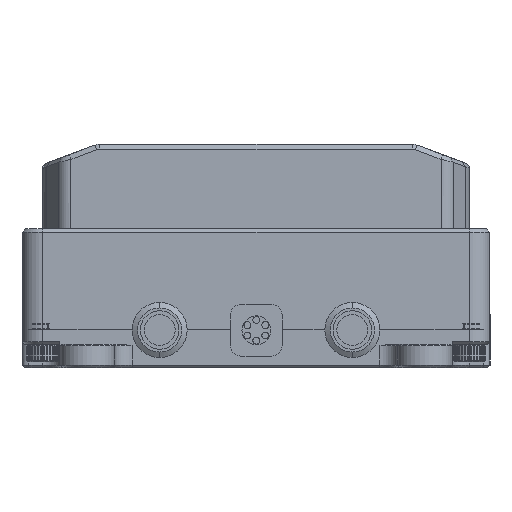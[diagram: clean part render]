
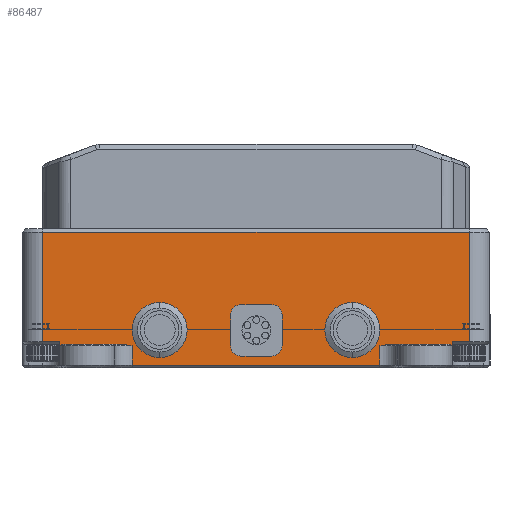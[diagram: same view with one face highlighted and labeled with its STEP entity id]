
A CAD part, left-side view. The second image highlights one B-rep face of the part: STEP entity #86487.
In plain terms, the highlighted planar face has unit normal (-1, 0, 0).
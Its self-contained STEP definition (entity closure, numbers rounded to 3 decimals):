
#761=DIRECTION('',(0.,0.,-1.));
#762=VECTOR('',#761,15.9);
#763=CARTESIAN_POINT('',(-66.5,31.,4.7));
#764=LINE('',#763,#762);
#791=DIRECTION('',(0.,-1.,0.));
#792=VECTOR('',#791,2.5);
#793=CARTESIAN_POINT('',(-66.5,-28.5,-11.2));
#794=LINE('',#793,#792);
#798=DIRECTION('',(0.,0.,-1.));
#799=VECTOR('',#798,0.6);
#800=CARTESIAN_POINT('',(-66.5,-28.5,-11.2));
#801=LINE('',#800,#799);
#805=DIRECTION('',(0.,0.,-1.));
#806=VECTOR('',#805,2.8);
#807=CARTESIAN_POINT('',(-66.5,-18.,-11.8));
#808=LINE('',#807,#806);
#812=DIRECTION('',(0.,1.,0.));
#813=VECTOR('',#812,36.);
#814=CARTESIAN_POINT('',(-66.5,-18.,
-14.6));
#815=LINE('',#814,#813);
#819=DIRECTION('',(0.,0.,1.));
#820=VECTOR('',#819,2.8);
#821=CARTESIAN_POINT('',(-66.5,18.,-14.6));
#822=LINE('',#821,#820);
#826=DIRECTION('',(0.,0.,1.));
#827=VECTOR('',#826,0.6);
#828=CARTESIAN_POINT('',(-66.5,28.5,-11.8));
#829=LINE('',#828,#827);
#833=DIRECTION('',(0.,1.,0.));
#834=VECTOR('',#833,2.5);
#835=CARTESIAN_POINT('',(-66.5,28.5,-11.2));
#836=LINE('',#835,#834);
#840=DIRECTION('',(0.,-1.,0.));
#841=VECTOR('',#840,62.);
#842=CARTESIAN_POINT('',(-66.5,31.,4.7));
#843=LINE('',#842,#841);
#847=CARTESIAN_POINT('',(-66.5,14.,-9.5));
#848=DIRECTION('',(1.,0.,0.));
#849=DIRECTION('',(0.,0.,-1.));
#850=AXIS2_PLACEMENT_3D('',#847,#848,#849);
#855=CARTESIAN_POINT('',(-66.5,14.,-9.5));
#856=DIRECTION('',(1.,0.,0.));
#857=DIRECTION('',(0.,0.,1.));
#858=AXIS2_PLACEMENT_3D('',#855,#856,#857);
#863=CARTESIAN_POINT('',(-66.5,-14.,-9.5));
#864=DIRECTION('',(1.,0.,0.));
#865=DIRECTION('',(0.,0.,-1.));
#866=AXIS2_PLACEMENT_3D('',#863,#864,#865);
#871=CARTESIAN_POINT('',(-66.5,-14.,-9.5));
#872=DIRECTION('',(1.,0.,0.));
#873=DIRECTION('',(0.,0.,1.));
#874=AXIS2_PLACEMENT_3D('',#871,#872,#873);
#879=DIRECTION('',(0.,-1.,0.));
#880=VECTOR('',#879,6.1);
#881=CARTESIAN_POINT('',(-66.5,3.,-12.5));
#882=LINE('',#881,#880);
#886=DIRECTION('',(0.,0.,1.));
#887=VECTOR('',#886,6.);
#888=CARTESIAN_POINT('',(-66.5,-3.1,-12.5));
#889=LINE('',#888,#887);
#893=DIRECTION('',(0.,1.,0.));
#894=VECTOR('',#893,6.1);
#895=CARTESIAN_POINT('',(-66.5,-3.1,-6.5));
#896=LINE('',#895,#894);
#900=DIRECTION('',(0.,0.,-1.));
#901=VECTOR('',#900,3.);
#902=CARTESIAN_POINT('',(-66.5,3.,-6.5));
#903=LINE('',#902,#901);
#907=DIRECTION('',(0.,0.,-1.));
#908=VECTOR('',#907,3.);
#909=CARTESIAN_POINT('',(-66.5,3.05,-9.5));
#910=LINE('',#909,#908);
#914=DIRECTION('',(0.,-1.,0.));
#915=VECTOR('',#914,0.05);
#916=CARTESIAN_POINT('',(-66.5,3.05,-12.5));
#917=LINE('',#916,#915);
#936=DIRECTION('',(0.,0.,1.));
#937=VECTOR('',#936,15.9);
#938=CARTESIAN_POINT('',(-66.5,-31.,
-11.2));
#939=LINE('',#938,#937);
#11717=DIRECTION('',(0.,-1.,0.));
#11718=VECTOR('',#11717,0.05);
#11719=CARTESIAN_POINT('',(-66.5,3.05,-9.5));
#11720=LINE('',#11719,#11718);
#16920=CARTESIAN_POINT('',(-66.5,-19.02,-11.6));
#16933=DIRECTION('',(0.,-1.,0.));
#16934=VECTOR('',#16933,9.28);
#16935=CARTESIAN_POINT('',(-66.5,-19.02,-11.6));
#16936=LINE('',#16935,#16934);
#16947=DIRECTION('',(0.,-1.,0.));
#16948=VECTOR('',#16947,9.28);
#16949=CARTESIAN_POINT('',(-66.5,28.3,-11.6));
#16950=LINE('',#16949,#16948);
#19326=DIRECTION('',(0.,-0.707,0.707));
#19327=VECTOR('',#19326,0.283);
#19328=CARTESIAN_POINT('',(-66.5,28.5,-11.8));
#19329=LINE('',#19328,#19327);
#19394=CARTESIAN_POINT('',(-66.5,19.02,-11.6));
#19395=CARTESIAN_POINT('',(-66.5,18.839,-11.668));
#19396=CARTESIAN_POINT('',(-66.5,18.488,-11.769));
#19397=CARTESIAN_POINT('',(-66.5,18.159,-11.8));
#19398=CARTESIAN_POINT('',(-66.5,18.,-11.8));
#19522=DIRECTION('',(0.,-0.707,-0.707));
#19523=VECTOR('',#19522,0.283);
#19524=CARTESIAN_POINT('',(-66.5,-28.3,-11.6));
#19525=LINE('',#19524,#19523);
#19594=CARTESIAN_POINT('',(-66.5,-18.,-11.8));
#19595=CARTESIAN_POINT('',(-66.5,-18.16,-11.8));
#19596=CARTESIAN_POINT('',(-66.5,-18.489,-11.769));
#19597=CARTESIAN_POINT('',(-66.5,-18.84,-11.668));
#19598=CARTESIAN_POINT('',(-66.5,-19.02,-11.6));
#75155=CARTESIAN_POINT('',(-66.5,31.,4.7));
#75157=VERTEX_POINT('',#75155);
#75160=CARTESIAN_POINT('',(-66.5,-31.,
4.7));
#75161=VERTEX_POINT('',#75160);
#78358=CARTESIAN_POINT('',(-66.5,-18.,
-14.6));
#78359=CARTESIAN_POINT('',(-66.5,18.,
-14.6));
#78360=VERTEX_POINT('',#78358);
#78361=VERTEX_POINT('',#78359);
#78628=CARTESIAN_POINT('',(-66.5,31.,-11.2));
#78629=VERTEX_POINT('',#78628);
#78630=CARTESIAN_POINT('',(-66.5,28.5,-11.2));
#78631=VERTEX_POINT('',#78630);
#78726=CARTESIAN_POINT('',(-66.5,-31.,-11.2));
#78727=VERTEX_POINT('',#78726);
#78730=CARTESIAN_POINT('',(-66.5,-28.5,-11.2));
#78731=VERTEX_POINT('',#78730);
#79255=CARTESIAN_POINT('',(-66.5,-28.5,-11.8));
#79257=VERTEX_POINT('',#79255);
#79259=CARTESIAN_POINT('',(-66.5,-28.3,-11.6));
#79261=VERTEX_POINT('',#79259);
#79270=VERTEX_POINT('',#16920);
#79271=CARTESIAN_POINT('',(-66.5,-18.,-11.8));
#79272=VERTEX_POINT('',#79271);
#79274=CARTESIAN_POINT('',(-66.5,28.3,-11.6));
#79276=VERTEX_POINT('',#79274);
#79278=CARTESIAN_POINT('',(-66.5,28.5,-11.8));
#79280=VERTEX_POINT('',#79278);
#79289=CARTESIAN_POINT('',(-66.5,18.,-11.8));
#79290=VERTEX_POINT('',#79289);
#79291=CARTESIAN_POINT('',(-66.5,19.02,-11.6));
#79292=VERTEX_POINT('',#79291);
#79330=CARTESIAN_POINT('',(-66.5,3.05,-9.5));
#79332=VERTEX_POINT('',#79330);
#79398=CARTESIAN_POINT('',(-66.5,3.05,-12.5));
#79399=VERTEX_POINT('',#79398);
#85204=CARTESIAN_POINT('',(-66.5,14.,-13.));
#85205=CARTESIAN_POINT('',(-66.5,14.,-6.));
#85206=VERTEX_POINT('',#85204);
#85207=VERTEX_POINT('',#85205);
#85321=CARTESIAN_POINT('',(-66.5,-14.,-13.));
#85322=CARTESIAN_POINT('',(-66.5,-14.,-6.));
#85323=VERTEX_POINT('',#85321);
#85324=VERTEX_POINT('',#85322);
#85406=CARTESIAN_POINT('',(-66.5,3.,-9.5));
#85408=VERTEX_POINT('',#85406);
#85410=CARTESIAN_POINT('',(-66.5,3.,-12.5));
#85411=CARTESIAN_POINT('',(-66.5,-3.1,-12.5));
#85412=VERTEX_POINT('',#85410);
#85413=VERTEX_POINT('',#85411);
#85414=CARTESIAN_POINT('',(-66.5,-3.1,-6.5));
#85415=VERTEX_POINT('',#85414);
#85416=CARTESIAN_POINT('',(-66.5,3.,-6.5));
#85417=VERTEX_POINT('',#85416);
#86422=CARTESIAN_POINT('',(-66.5,34.,-9.5));
#86423=DIRECTION('',(-1.,0.,0.));
#86424=DIRECTION('',(0.,-1.,0.));
#86425=AXIS2_PLACEMENT_3D('',#86422,#86423,#86424);
#86426=PLANE('',#86425);
#86428=ORIENTED_EDGE('',*,*,#86427,.F.);
#86430=ORIENTED_EDGE('',*,*,#86429,.F.);
#86432=ORIENTED_EDGE('',*,*,#86431,.T.);
#86434=ORIENTED_EDGE('',*,*,#86433,.F.);
#86436=ORIENTED_EDGE('',*,*,#86435,.F.);
#86438=ORIENTED_EDGE('',*,*,#86437,.F.);
#86440=ORIENTED_EDGE('',*,*,#86439,.T.);
#86442=ORIENTED_EDGE('',*,*,#86441,.T.);
#86444=ORIENTED_EDGE('',*,*,#86443,.T.);
#86446=ORIENTED_EDGE('',*,*,#86445,.F.);
#86448=ORIENTED_EDGE('',*,*,#86447,.F.);
#86450=ORIENTED_EDGE('',*,*,#86449,.F.);
#86452=ORIENTED_EDGE('',*,*,#86451,.T.);
#86454=ORIENTED_EDGE('',*,*,#86453,.T.);
#86455=ORIENTED_EDGE('',*,*,#86413,.F.);
#86456=ORIENTED_EDGE('',*,*,#86296,.T.);
#86457=EDGE_LOOP('',(#86428,#86430,#86432,#86434,#86436,#86438,#86440,#86442,
#86444,#86446,#86448,#86450,#86452,#86454,#86455,#86456));
#86458=FACE_OUTER_BOUND('',#86457,.F.);
#86460=ORIENTED_EDGE('',*,*,#86459,.F.);
#86462=ORIENTED_EDGE('',*,*,#86461,.F.);
#86463=EDGE_LOOP('',(#86460,#86462));
#86464=FACE_BOUND('',#86463,.F.);
#86466=ORIENTED_EDGE('',*,*,#86465,.F.);
#86468=ORIENTED_EDGE('',*,*,#86467,.F.);
#86469=EDGE_LOOP('',(#86466,#86468));
#86470=FACE_BOUND('',#86469,.F.);
#86472=ORIENTED_EDGE('',*,*,#86471,.T.);
#86474=ORIENTED_EDGE('',*,*,#86473,.T.);
#86476=ORIENTED_EDGE('',*,*,#86475,.T.);
#86478=ORIENTED_EDGE('',*,*,#86477,.T.);
#86480=ORIENTED_EDGE('',*,*,#86479,.F.);
#86482=ORIENTED_EDGE('',*,*,#86481,.T.);
#86484=ORIENTED_EDGE('',*,*,#86483,.T.);
#86485=EDGE_LOOP('',(#86472,#86474,#86476,#86478,#86480,#86482,#86484));
#86486=FACE_BOUND('',#86485,.F.);
#851=CIRCLE('',#850,3.5);
#859=CIRCLE('',#858,3.5);
#867=CIRCLE('',#866,3.5);
#875=CIRCLE('',#874,3.5);
#19399=B_SPLINE_CURVE_WITH_KNOTS('',3,(#19394,#19395,#19396,#19397,#19398),
.UNSPECIFIED.,.F.,.F.,(4,1,4),(0.,0.5,1.),.UNSPECIFIED.);
#19599=B_SPLINE_CURVE_WITH_KNOTS('',3,(#19594,#19595,#19596,#19597,#19598),
.UNSPECIFIED.,.F.,.F.,(4,1,4),(0.,0.5,1.),.UNSPECIFIED.);
#86296=EDGE_CURVE('',#75157,#75161,#843,.T.);
#86413=EDGE_CURVE('',#75157,#78629,#764,.T.);
#86427=EDGE_CURVE('',#78727,#75161,#939,.T.);
#86429=EDGE_CURVE('',#78731,#78727,#794,.T.);
#86431=EDGE_CURVE('',#78731,#79257,#801,.T.);
#86433=EDGE_CURVE('',#79261,#79257,#19525,.T.);
#86435=EDGE_CURVE('',#79270,#79261,#16936,.T.);
#86437=EDGE_CURVE('',#79272,#79270,#19599,.T.);
#86439=EDGE_CURVE('',#79272,#78360,#808,.T.);
#86441=EDGE_CURVE('',#78360,#78361,#815,.T.);
#86443=EDGE_CURVE('',#78361,#79290,#822,.T.);
#86445=EDGE_CURVE('',#79292,#79290,#19399,.T.);
#86447=EDGE_CURVE('',#79276,#79292,#16950,.T.);
#86449=EDGE_CURVE('',#79280,#79276,#19329,.T.);
#86451=EDGE_CURVE('',#79280,#78631,#829,.T.);
#86453=EDGE_CURVE('',#78631,#78629,#836,.T.);
#86459=EDGE_CURVE('',#85206,#85207,#851,.T.);
#86461=EDGE_CURVE('',#85207,#85206,#859,.T.);
#86465=EDGE_CURVE('',#85323,#85324,#867,.T.);
#86467=EDGE_CURVE('',#85324,#85323,#875,.T.);
#86471=EDGE_CURVE('',#85412,#85413,#882,.T.);
#86473=EDGE_CURVE('',#85413,#85415,#889,.T.);
#86475=EDGE_CURVE('',#85415,#85417,#896,.T.);
#86477=EDGE_CURVE('',#85417,#85408,#903,.T.);
#86479=EDGE_CURVE('',#79332,#85408,#11720,.T.);
#86481=EDGE_CURVE('',#79332,#79399,#910,.T.);
#86483=EDGE_CURVE('',#79399,#85412,#917,.T.);
#86487=ADVANCED_FACE('',(#86458,#86464,#86470,#86486),#86426,.T.);
